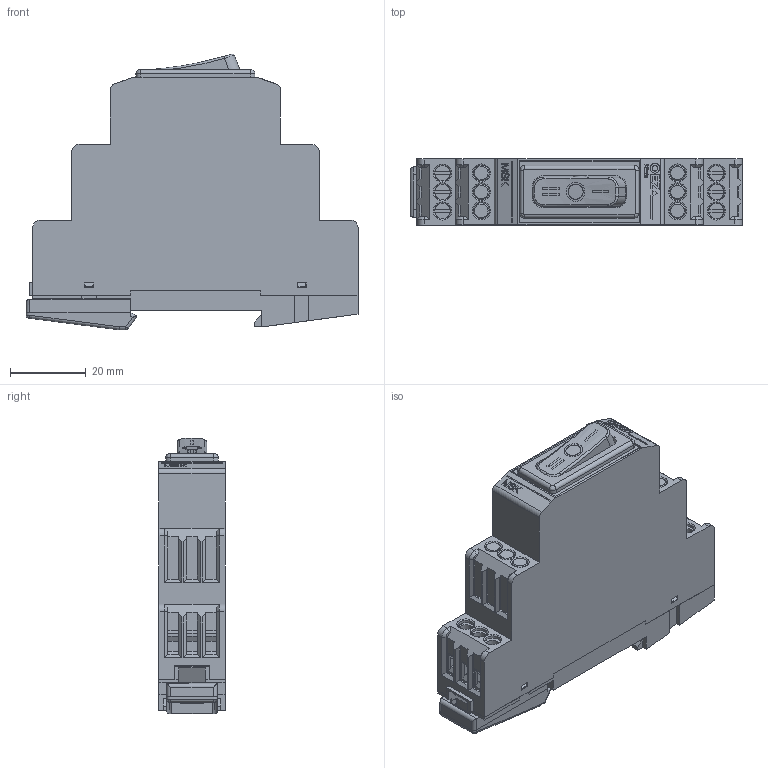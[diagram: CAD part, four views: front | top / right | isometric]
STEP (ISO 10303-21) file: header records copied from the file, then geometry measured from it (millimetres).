
FILE_DESCRIPTION(/* description */ (''),/* implementation_level */ '2;1');
FILE_NAME(/* name */ 'SESTAVA_MSK_850412_-_0_step.stp',/* time_stamp */ '2022-10-18T09:38:55+02:00',/* author */ ('"(c) Siemens AG Smart Infrastructure"'),/* organization */ ('"(c) Siemens AG - Smart Infrastructure - EP"'),/* preprocessor_version */ 'ST-DEVELOPER v18.101',/* originating_system */ 'SIEMENS PLM Software NX 2008',/* authorisation */ '"Transmittal reproduction, dissemination and/or editing of this document as well as utilization of its contents and communication thereof to others without express authorization is prohibited. Offenders will be held liable for payment of damages. All rights created by patent grant or registration of a utility model or design patent are reserved."');
FILE_SCHEMA (('AUTOMOTIVE_DESIGN { 1 0 10303 214 3 1 1 1 }'));
Length unit declared in the file: millimetre
Products named in the file (1): SESTAVA_MSK_850412_-_0
Bounding box: 87.8 x 17.5 x 72.93 mm (x, y, z)
Volume: 23129.3 mm3; surface area: 38912.3 mm2
Topology: 30 solids, 30 shells, 1213 faces, 3200 edges, 2065 vertices
Faces by surface type: plane 866, cylinder 255, torus 46, cone 24, bspline 15, sphere 6, extrusion 1
Full cylindrical faces by diameter (mm): 0.9 x2, 3.3 x4, 4 x12, 4.2 x12
Entity records: 38420 total; most frequent: CARTESIAN_POINT 7948, ORIENTED_EDGE 6248, DIRECTION 5926, EDGE_CURVE 3124, VECTOR 2412, LINE 2411, VERTEX_POINT 2047, AXIS2_PLACEMENT_3D 1757
